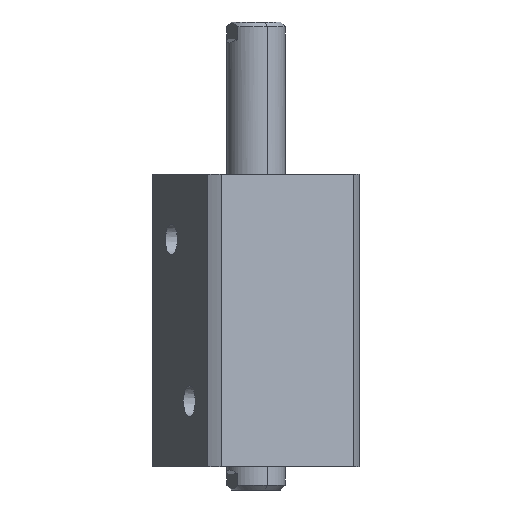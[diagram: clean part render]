
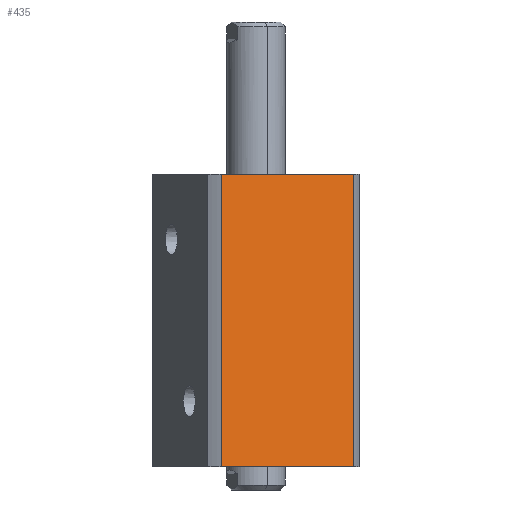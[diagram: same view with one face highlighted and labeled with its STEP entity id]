
A CAD part, left-side view. The second image highlights one B-rep face of the part: STEP entity #435.
In plain terms, the highlighted planar face has unit normal (-0.924, -0.383, 0) as drawn and (1, 0, 0) by its records, which use the part's own axes.
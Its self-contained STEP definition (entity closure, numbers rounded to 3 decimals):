
#435 = ADVANCED_FACE ( 'NONE', ( #10327 ), #8017, .F. ) ;
#608 = EDGE_CURVE ( 'NONE', #1684, #4851, #4090, .T. ) ;
#766 = DIRECTION ( 'NONE',  ( 0., 0., -1. ) ) ;
#1380 = CARTESIAN_POINT ( 'NONE',  ( 35., 35., 125. ) ) ;
#1675 = VECTOR ( 'NONE', #10074, 1000. ) ;
#1684 = VERTEX_POINT ( 'NONE', #10366 ) ;
#1835 = VECTOR ( 'NONE', #2532, 1000. ) ;
#2146 = AXIS2_PLACEMENT_3D ( 'NONE', #1380, #7987, #7920 ) ;
#2205 = CARTESIAN_POINT ( 'NONE',  ( 35., -30.615, 125. ) ) ;
#2532 = DIRECTION ( 'NONE',  ( 0., 0., 1. ) ) ;
#2871 = LINE ( 'NONE', #10386, #4770 ) ;
#3376 = EDGE_CURVE ( 'NONE', #5374, #4851, #2871, .T. ) ;
#3610 = DIRECTION ( 'NONE',  ( 0., 1., 0. ) ) ;
#4090 = LINE ( 'NONE', #9301, #1675 ) ;
#4770 = VECTOR ( 'NONE', #766, 1000. ) ;
#4797 = EDGE_CURVE ( 'NONE', #5664, #5374, #5779, .T. ) ;
#4851 = VERTEX_POINT ( 'NONE', #8431 ) ;
#5374 = VERTEX_POINT ( 'NONE', #9044 ) ;
#5664 = VERTEX_POINT ( 'NONE', #2205 ) ;
#5729 = ORIENTED_EDGE ( 'NONE', *, *, #6994, .F. ) ;
#5754 = ORIENTED_EDGE ( 'NONE', *, *, #608, .T. ) ;
#5779 = LINE ( 'NONE', #9179, #7879 ) ;
#6923 = CARTESIAN_POINT ( 'NONE',  ( 35., -30.615, -175. ) ) ;
#6994 = EDGE_CURVE ( 'NONE', #1684, #5664, #8243, .T. ) ;
#7879 = VECTOR ( 'NONE', #3610, 1000. ) ;
#7920 = DIRECTION ( 'NONE',  ( 0., -1., 0. ) ) ;
#7987 = DIRECTION ( 'NONE',  ( -1., 0., 0. ) ) ;
#8017 = PLANE ( 'NONE',  #2146 ) ;
#8085 = ORIENTED_EDGE ( 'NONE', *, *, #4797, .F. ) ;
#8243 = LINE ( 'NONE', #6923, #1835 ) ;
#8431 = CARTESIAN_POINT ( 'NONE',  ( 35., 30.615, 0. ) ) ;
#9044 = CARTESIAN_POINT ( 'NONE',  ( 35., 30.615, 125. ) ) ;
#9179 = CARTESIAN_POINT ( 'NONE',  ( 35., 35., 125. ) ) ;
#9301 = CARTESIAN_POINT ( 'NONE',  ( 35., 35., 0. ) ) ;
#9319 = EDGE_LOOP ( 'NONE', ( #5729, #5754, #10094, #8085 ) ) ;
#10074 = DIRECTION ( 'NONE',  ( 0., 1., 0. ) ) ;
#10094 = ORIENTED_EDGE ( 'NONE', *, *, #3376, .F. ) ;
#10327 = FACE_OUTER_BOUND ( 'NONE', #9319, .T. ) ;
#10366 = CARTESIAN_POINT ( 'NONE',  ( 35., -30.615, 0. ) ) ;
#10386 = CARTESIAN_POINT ( 'NONE',  ( 35., 30.615, -175. ) ) ;
